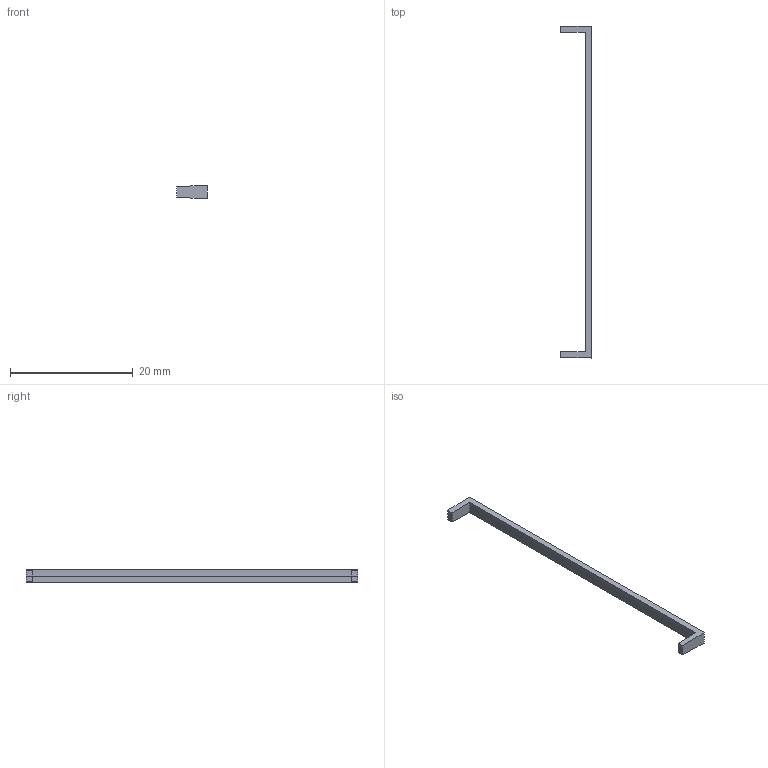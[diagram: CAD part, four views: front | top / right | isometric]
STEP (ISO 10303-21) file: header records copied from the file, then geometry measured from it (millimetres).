
FILE_DESCRIPTION(('STEP AP214'),'1');
FILE_NAME('Expander.stp','2020-05-27T17:59:29',(' '),(' '),'Spatial InterOp 3D',' ',' ');
FILE_SCHEMA(('AUTOMOTIVE_DESIGN { 1 0 10303 214 1 1 1 1 }'));
Length unit declared in the file: metre
Products named in the file (1): Solid
Bounding box: 5.01 x 54 x 2.09 mm (x, y, z)
Volume: 127.2 mm3; surface area: 382.1 mm2
Topology: 1 solids, 1 shells, 14 faces, 36 edges, 24 vertices
Faces by surface type: cylinder 8, plane 6
Entity records: 461 total; most frequent: DIRECTION 82, CARTESIAN_POINT 75, ORIENTED_EDGE 72, EDGE_CURVE 36, AXIS2_PLACEMENT_3D 31, VERTEX_POINT 24, LINE 20, VECTOR 20
